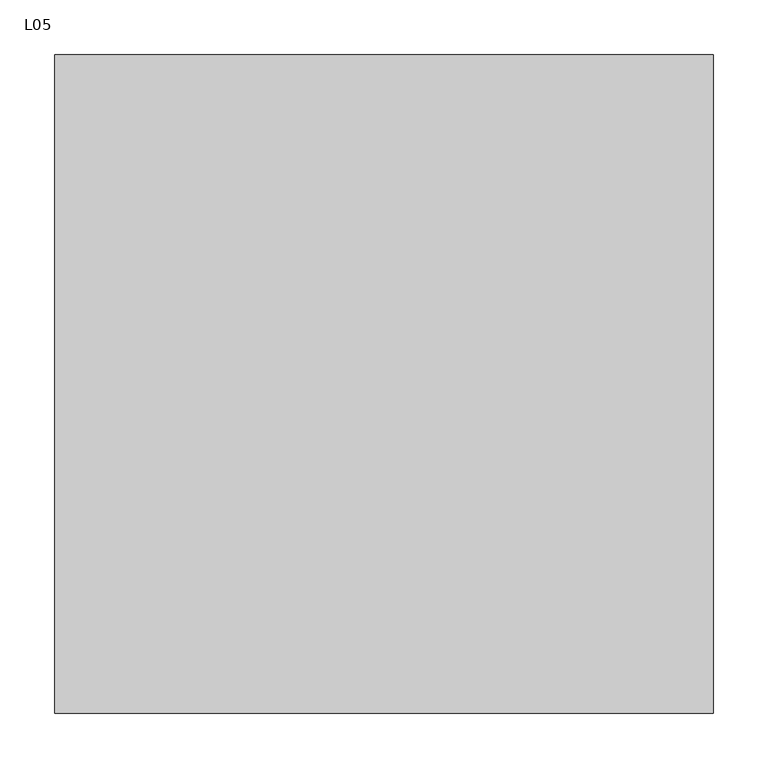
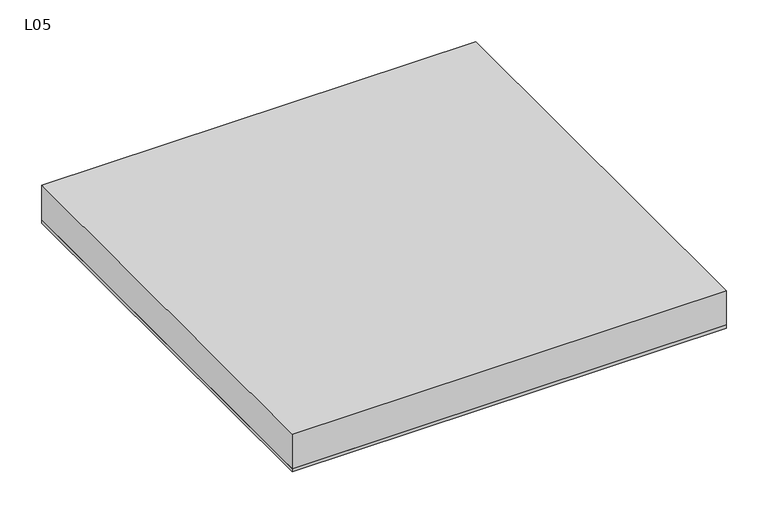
"""IFC4 building model written with IfcOpenShell, lengths in millimetres: light fixture geometry, ZYR_06.02.01 Pantalla 60X60 : L05."""

from ifc_helpers import new_model, si_unit, frame, origin, origin_with_axes, place, context, project, spatial, polyline, outline, extrude, source, transform, mapped, element, save


def l05_b3fc9898(model_context):
    return source(origin(), model_context, "Body", "SweptSolid", [
        extrude(outline(polyline([(300.0, 300.0), (300.0, -300.0), (-300.0, -300.0), (-300.0, 300.0), (300.0, 300.0)])), origin_with_axes(), (0.0, 0.0, 1.0), 50.0),
        extrude(outline(polyline([(300.0, 300.0), (300.0, -300.0), (-300.0, -300.0), (-300.0, 300.0), (300.0, 300.0)])), frame((0.0, 0.0, -5.0), z_axis=(0.0, 0.0, 1.0), x_axis=(1.0, 0.0, 0.0)), (0.0, 0.0, 1.0), 5.0),
    ])


if __name__ == "__main__":
    model = new_model("IFC4")
    model_context = context("Model", 3, world=origin())
    ifc_project = project(units=[si_unit("LENGTHUNIT", "METRE", prefix="MILLI")], contexts=[model_context])
    site = spatial("IfcSite", under=ifc_project)
    building = spatial("IfcBuilding", under=site)
    placement = place(None, origin())
    l05_shape = l05_b3fc9898(model_context)
    element("IfcLightFixture", 1, ObjectType="ZYR_06.02.01 Pantalla 60X60 : L05", at=placement, inside=building, context=model_context, shape_type="MappedRepresentation", body=[
        mapped(l05_shape, transform((0.0, 0.0, 0.0), x_axis=(1.0, 0.0, 0.0), y_axis=(0.0, 1.0, 0.0), z_axis=(0.0, 0.0, 1.0))),
    ])
    save(model, "model.ifc")
